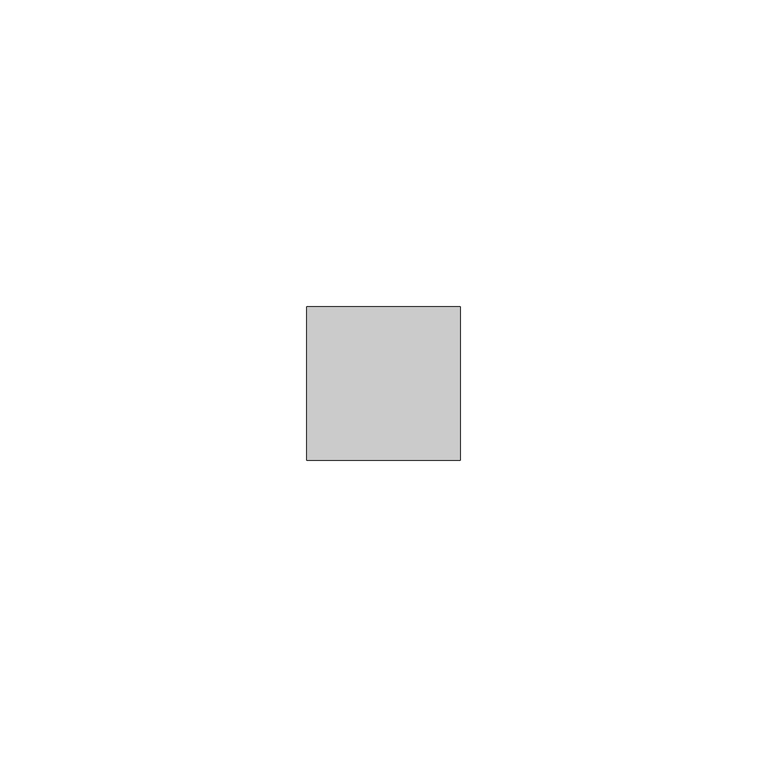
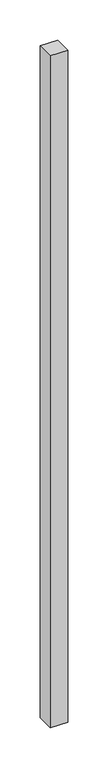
"""IFC4 building model written with IfcOpenShell, lengths in millimetres: member geometry, Obdélníková příčel : VERTI AERO."""

from ifc_helpers import new_model, si_unit, frame, origin, place, context, project, spatial, polyline, outline, extrude, source, transform, mapped, element, save


def member_560038c9(model_context):
    return source(origin(), model_context, "Body", "SweptSolid", [
        extrude(outline(polyline([(-25.0, 12.5), (0.0, 12.5), (0.0, -12.5), (-25.0, -12.5), (-25.0, 12.5)])), frame((0.0, 0.0, -1020.0), z_axis=(0.0, 0.0, 1.0), x_axis=(1.0, 0.0, 0.0)), (0.0, 0.0, 1.0), 1020.0),
    ])


if __name__ == "__main__":
    model = new_model("IFC4")
    model_context = context("Model", 3, world=origin())
    ifc_project = project(units=[si_unit("LENGTHUNIT", "METRE", prefix="MILLI")], contexts=[model_context])
    site = spatial("IfcSite", under=ifc_project)
    building = spatial("IfcBuilding", under=site)
    placement = place(None, origin())
    member_shape = member_560038c9(model_context)
    element("IfcMember", 1, ObjectType="Obdélníková příčel : VERTI AERO", at=placement, inside=building, context=model_context, shape_type="MappedRepresentation", body=[
        mapped(member_shape, transform((0.0, 0.0, 0.0), x_axis=(1.0, 0.0, 0.0), y_axis=(0.0, 1.0, 0.0), z_axis=(0.0, 0.0, 1.0))),
    ])
    save(model, "model.ifc")
